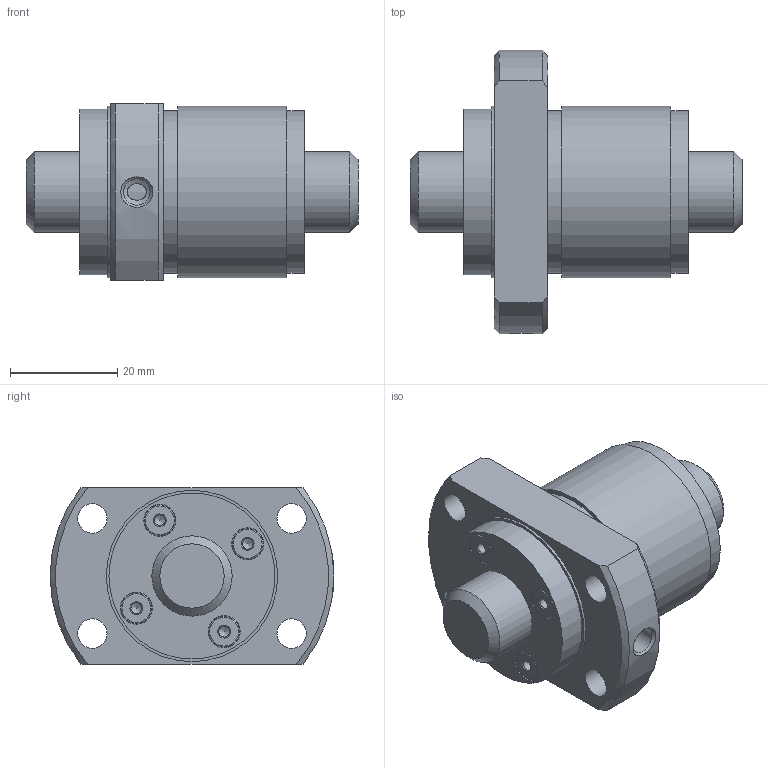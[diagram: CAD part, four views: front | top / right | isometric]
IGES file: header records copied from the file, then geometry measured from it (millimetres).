
Start section: Data from Parasolid IGES Translator 26.0.171, Copyright(c) 2006 Siemens PLM Software. All Rights Reserved.
Global section: file name: WGF1540-1.5G1+62LC3_N0_13_0_0.igs; native system: By Siemens PLM Incorporated; preprocessor: XPlus GENERIC/IGES 26.0.171; author: Noname; organization: Noname; date: 20250116.062535; units: millimetre
Bounding box: 62 x 53 x 33 mm (x, y, z)
Surface area: 14435.9 mm2 (no closed solid volume)
Topology: 0 solids, 0 shells, 65 faces, 272 edges, 221 vertices
Faces by surface type: revolution 46, extrusion 19
